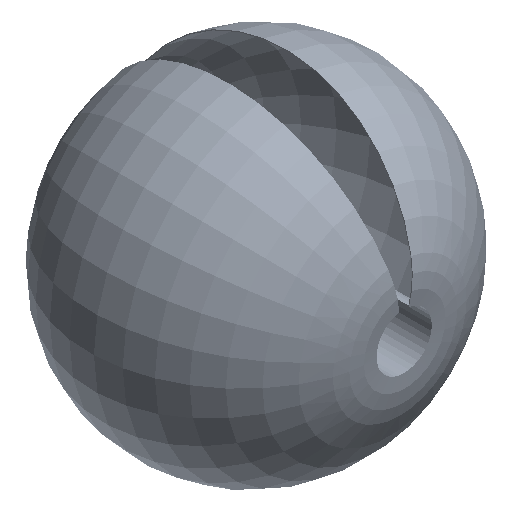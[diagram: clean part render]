
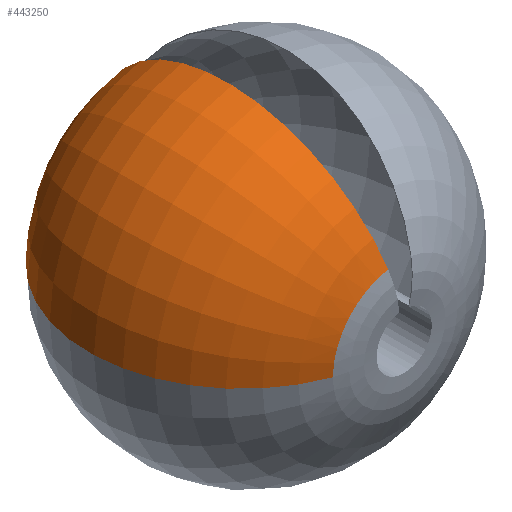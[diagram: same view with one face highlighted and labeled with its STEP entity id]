
A CAD part, isometric view. The second image highlights one B-rep face of the part: STEP entity #443250.
In plain terms, the highlighted toroidal (fillet/blend) face has major radius 180 mm and minor radius 1880.8 mm.
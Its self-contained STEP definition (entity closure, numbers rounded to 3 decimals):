
#5859 = DIRECTION ( 'NONE',  ( 0., 0., 1. ) ) ;
#6678 = DIRECTION ( 'NONE',  ( 0., 0., -1. ) ) ;
#8477 = AXIS2_PLACEMENT_3D ( 'NONE', #8659, #122522, #317070 ) ;
#8659 = CARTESIAN_POINT ( 'NONE',  ( -177.265, 437., -31.257 ) ) ;
#14111 = DIRECTION ( 'NONE',  ( 0., -1., 0. ) ) ;
#18368 = VERTEX_POINT ( 'NONE', #449024 ) ;
#36262 = DIRECTION ( 'NONE',  ( -1., 0., 0. ) ) ;
#44983 = EDGE_CURVE ( 'NONE', #334882, #151823, #178024, .T. ) ;
#52898 = CIRCLE ( 'NONE', #335487, 823.271 ) ;
#94131 = EDGE_LOOP ( 'NONE', ( #177676, #485452, #373296 ) ) ;
#122522 = DIRECTION ( 'NONE',  ( 0.174, 0., -0.985 ) ) ;
#127028 = CARTESIAN_POINT ( 'NONE',  ( -810.764, -1330.374, -142.96 ) ) ;
#144460 = EDGE_CURVE ( 'NONE', #334882, #18368, #52898, .T. ) ;
#151823 = VERTEX_POINT ( 'NONE', #419833 ) ;
#177676 = ORIENTED_EDGE ( 'NONE', *, *, #44983, .T. ) ;
#178024 = CIRCLE ( 'NONE', #8477, 1880.8 ) ;
#191494 = AXIS2_PLACEMENT_3D ( 'NONE', #197991, #36262, #5859 ) ;
#197991 = CARTESIAN_POINT ( 'NONE',  ( 0., 437., -180. ) ) ;
#203777 = CARTESIAN_POINT ( 'NONE',  ( 0., 437., 0. ) ) ;
#207401 = CIRCLE ( 'NONE', #191494, 1880.8 ) ;
#270247 = TOROIDAL_SURFACE ( 'NONE', #302349, 180., 1880.8 ) ;
#302349 = AXIS2_PLACEMENT_3D ( 'NONE', #203777, #14111, #6678 ) ;
#309905 = DIRECTION ( 'NONE',  ( 0., 0., -1. ) ) ;
#317070 = DIRECTION ( 'NONE',  ( -0.985, 0., -0.174 ) ) ;
#334882 = VERTEX_POINT ( 'NONE', #127028 ) ;
#335487 = AXIS2_PLACEMENT_3D ( 'NONE', #431335, #355308, #309905 ) ;
#339198 = EDGE_CURVE ( 'NONE', #151823, #18368, #207401, .T. ) ;
#355308 = DIRECTION ( 'NONE',  ( 0., -1., 0. ) ) ;
#373296 = ORIENTED_EDGE ( 'NONE', *, *, #144460, .F. ) ;
#391039 = FACE_OUTER_BOUND ( 'NONE', #94131, .T. ) ;
#419833 = CARTESIAN_POINT ( 'NONE',  ( 0., 2309.167, 0. ) ) ;
#431335 = CARTESIAN_POINT ( 'NONE',  ( 0., -1330.374, 0. ) ) ;
#443250 = ADVANCED_FACE ( 'NONE', ( #391039 ), #270247, .T. ) ;
#449024 = CARTESIAN_POINT ( 'NONE',  ( 0., -1330.374, -823.271 ) ) ;
#485452 = ORIENTED_EDGE ( 'NONE', *, *, #339198, .T. ) ;
